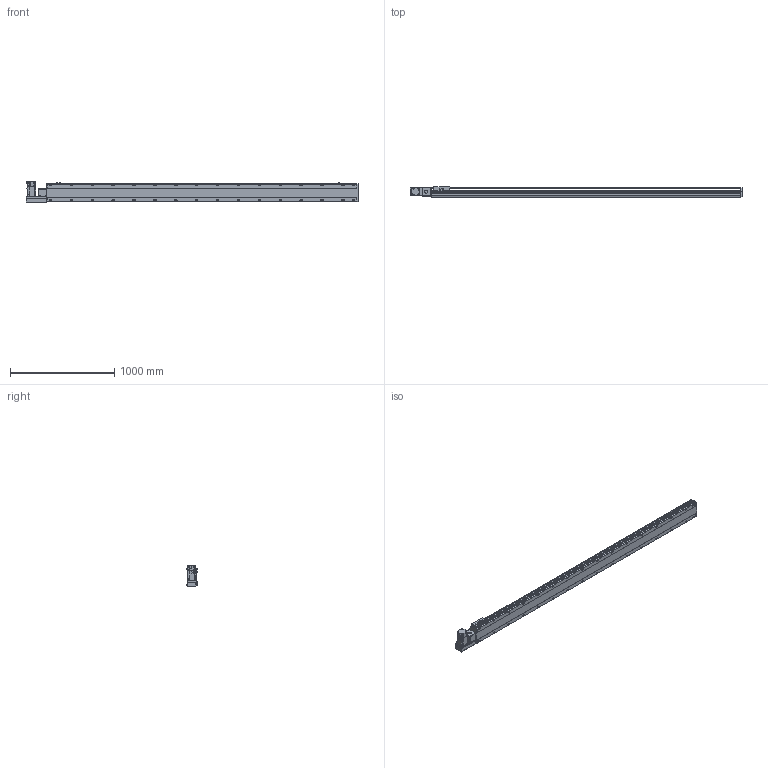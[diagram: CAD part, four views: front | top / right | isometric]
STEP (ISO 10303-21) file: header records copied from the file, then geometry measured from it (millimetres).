
FILE_DESCRIPTION( ( 'STEP AP214' ), '1' );
FILE_NAME( 'x:/temp/worker_1/temp/exporttempdir_5824_203_HJ5iS/format_0/PBS170-P40-S2700-L-T75-C1-N(0).stp', '2022-06-07T06:59:04', ( 'License CC BY-ND 4.0' ), ( 'CADENAS' ), ' ', 'PARTsolutions', ' ' );
FILE_SCHEMA( ( 'AUTOMOTIVE_DESIGN { 1 0 10303 214 1 1 1 1 }' ) );
Length unit declared in the file: millimetre
Products named in the file (7): PBS170-P40-S2700-L-T75-C1-N(0); _PBS170-S2700()_body; _PBS170T-L_motors; _T75-p1; _PBS170_sliser; _PBS170_plant; _PBS170_sensor
Assembly tree (8 placements, depth 2):
  PBS170-P40-S2700-L-T75-C1-N(0)
    _PBS170-S2700()_body
    _PBS170T-L_motors
    _T75-p1
    _PBS170_sliser
    _PBS170_plant
    _PBS170_sensor  x3
Bounding box: 3178 x 97 x 197.3 mm (x, y, z)
Volume: 23102353.1 mm3; surface area: 2902026.5 mm2
Topology: 8 solids, 8 shells, 1210 faces, 3195 edges, 2082 vertices
Faces by surface type: plane 735, cylinder 403, cone 62, sphere 8, torus 2
Full cylindrical faces by diameter (mm): 3.242 x4, 4 x2, 4.4 x4, 4.5 x6, 4.917 x4, 6 x9, 6.647 x40, 7 x2, 7.5 x4, 8 x8, 8.5 x32, 10 x4, 10.5 x32, 11 x2, 30 x2, 40 x1, 70 x1
Entity records: 44876 total; most frequent: CARTESIAN_POINT 7565, DIRECTION 5860, ORIENTED_EDGE 5508, EDGE_CURVE 2754, AXIS2_PLACEMENT_3D 2077, VERTEX_POINT 1922, LINE 1706, VECTOR 1706
